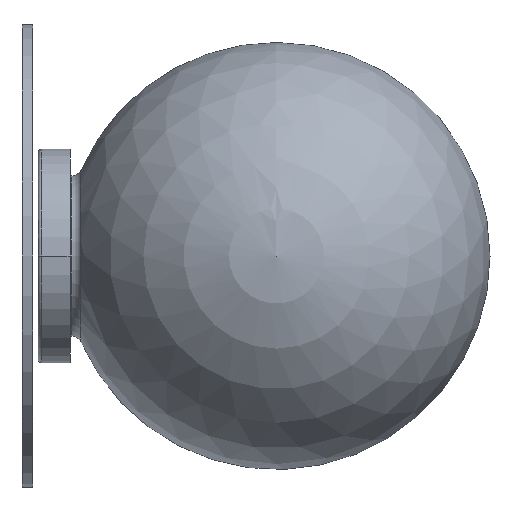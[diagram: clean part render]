
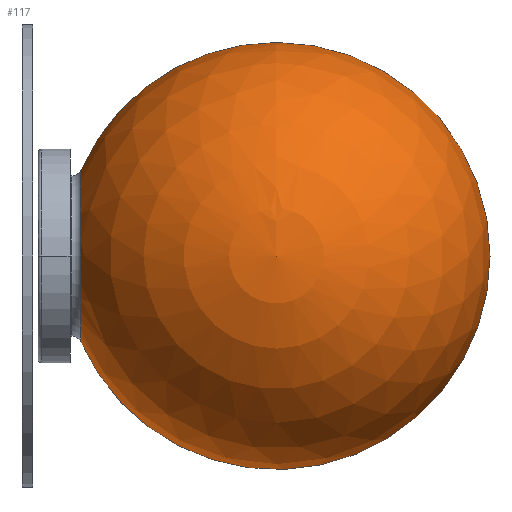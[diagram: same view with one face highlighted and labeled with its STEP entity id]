
A CAD part, left-side view. The second image highlights one B-rep face of the part: STEP entity #117.
In plain terms, the highlighted spherical face has radius 60 mm.
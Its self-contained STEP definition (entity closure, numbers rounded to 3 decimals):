
#39 = FACE_OUTER_BOUND ( 'NONE', #1242, .T. ) ;
#117 = ADVANCED_FACE ( 'NONE', ( #39 ), #1866, .T. ) ;
#129 = CARTESIAN_POINT ( 'NONE',  ( 0., 60., 0. ) ) ;
#203 = CARTESIAN_POINT ( 'NONE',  ( 0., 60., 0. ) ) ;
#255 = CARTESIAN_POINT ( 'NONE',  ( 0., 5.061, 0. ) ) ;
#286 = DIRECTION ( 'NONE',  ( 0., 0., 1. ) ) ;
#317 = ORIENTED_EDGE ( 'NONE', *, *, #1932, .F. ) ;
#485 = EDGE_CURVE ( 'NONE', #1454, #1494, #756, .T. ) ;
#535 = DIRECTION ( 'NONE',  ( 0., 0., -1. ) ) ;
#548 = ORIENTED_EDGE ( 'NONE', *, *, #1353, .T. ) ;
#559 = CARTESIAN_POINT ( 'NONE',  ( -24.119, 5.061, 0. ) ) ;
#581 = DIRECTION ( 'NONE',  ( 0., -1., 0. ) ) ;
#738 = AXIS2_PLACEMENT_3D ( 'NONE', #255, #581, #1505 ) ;
#756 = CIRCLE ( 'NONE', #2029, 60. ) ;
#832 = CIRCLE ( 'NONE', #1478, 60. ) ;
#983 = DIRECTION ( 'NONE',  ( -1., 0., 0. ) ) ;
#1106 = CARTESIAN_POINT ( 'NONE',  ( 24.119, 5.061, 0. ) ) ;
#1222 = CARTESIAN_POINT ( 'NONE',  ( 0., 120., 0. ) ) ;
#1242 = EDGE_LOOP ( 'NONE', ( #1525, #548, #317 ) ) ;
#1326 = CIRCLE ( 'NONE', #738, 24.119 ) ;
#1353 = EDGE_CURVE ( 'NONE', #1454, #1700, #832, .T. ) ;
#1397 = DIRECTION ( 'NONE',  ( 1., 0., 0. ) ) ;
#1412 = DIRECTION ( 'NONE',  ( 0., 0., -1. ) ) ;
#1453 = AXIS2_PLACEMENT_3D ( 'NONE', #1888, #1412, #1573 ) ;
#1454 = VERTEX_POINT ( 'NONE', #1222 ) ;
#1478 = AXIS2_PLACEMENT_3D ( 'NONE', #129, #286, #1397 ) ;
#1494 = VERTEX_POINT ( 'NONE', #1106 ) ;
#1505 = DIRECTION ( 'NONE',  ( 1., 0., 0. ) ) ;
#1525 = ORIENTED_EDGE ( 'NONE', *, *, #485, .F. ) ;
#1573 = DIRECTION ( 'NONE',  ( -1., 0., 0. ) ) ;
#1700 = VERTEX_POINT ( 'NONE', #559 ) ;
#1866 = SPHERICAL_SURFACE ( 'NONE', #1453, 60. ) ;
#1888 = CARTESIAN_POINT ( 'NONE',  ( 0., 60., 0. ) ) ;
#1932 = EDGE_CURVE ( 'NONE', #1494, #1700, #1326, .T. ) ;
#2029 = AXIS2_PLACEMENT_3D ( 'NONE', #203, #535, #983 ) ;
